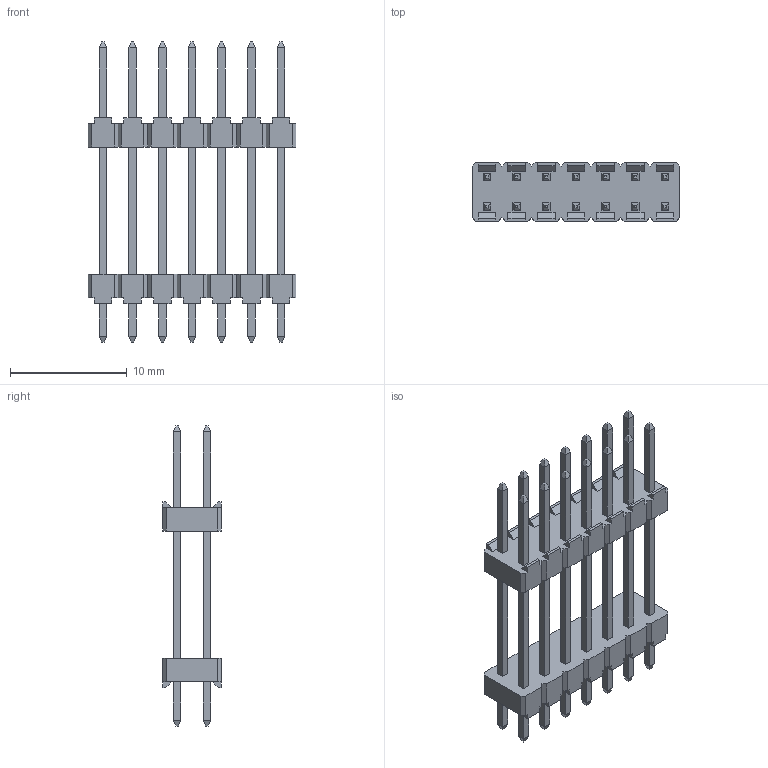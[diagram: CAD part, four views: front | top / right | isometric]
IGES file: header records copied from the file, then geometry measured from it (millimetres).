
Global section: file name: N:\GOLF_VI_2_54mm_UGII\9614XX-X04XX04-XX (TS-2185)\961414-8040704-XX.igs; native system: NX V3.0; preprocessor: UGS NX IGES V4.0; date: 20070618.103908; units: millimetre
Bounding box: 17.78 x 5 x 25.7 mm (x, y, z)
Surface area: 1326.3 mm2 (no closed solid volume)
Topology: 0 solids, 0 shells, 544 faces, 2849 edges, 2849 vertices
Faces by surface type: bspline 544
